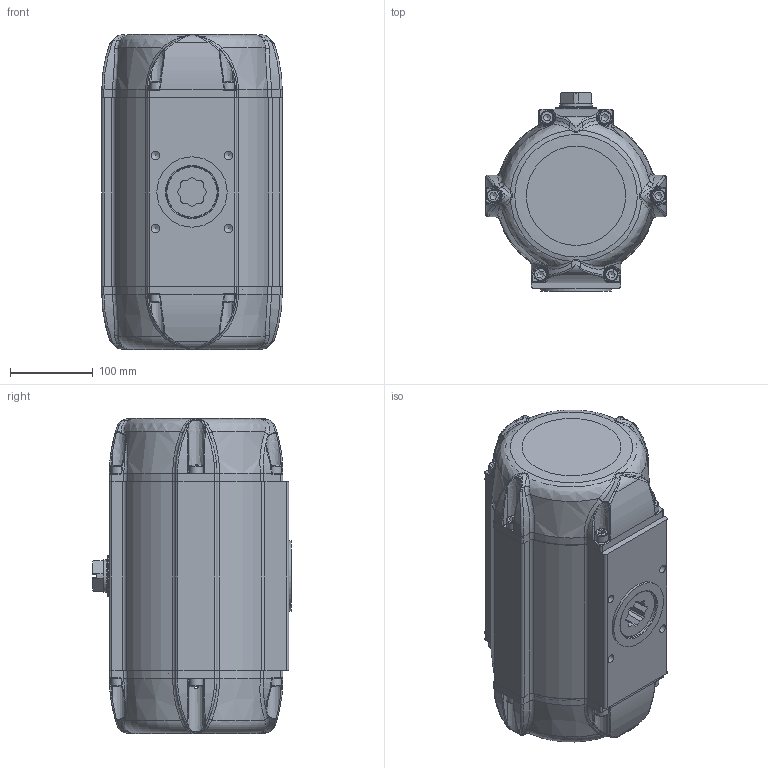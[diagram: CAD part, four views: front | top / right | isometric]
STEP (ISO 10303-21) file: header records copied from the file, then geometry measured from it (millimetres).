
FILE_DESCRIPTION((''),'2;1');
FILE_NAME('C:\Dokumente und Einstellungen\kir\Desktop\STEP IGES\SAF\SAF 35 BR03.stp','2006-12-19T11:42:11',('kir'),(''),'Autodesk Inventor 10','Autodesk Inventor 10','');
FILE_SCHEMA(('AUTOMOTIVE_DESIGN { 1 0 10303 214 1 1 1 1 }'));
Length unit declared in the file: millimetre
Products named in the file (1): ENG-039902
Bounding box: 218 x 240 x 382 mm (x, y, z)
Volume: 2695008.8 mm3; surface area: 648652.7 mm2
Topology: 25 solids, 25 shells, 1104 faces, 2735 edges, 1686 vertices
Faces by surface type: bspline 580, plane 267, cylinder 160, cone 70, torus 27
Full cylindrical faces by diameter (mm): 8.376 x6, 10 x12, 10.5 x6, 16 x12, 34.9 x1, 36 x1, 37 x3, 39.8 x3, 40 x1, 40.1 x1, 45 x1, 50 x2, 56.9 x1, 57 x1, 61.8 x3, 85 x1, 176 x1, 180 x1, 188.153 x1, 189.616 x1
Entity records: 68940 total; most frequent: CARTESIAN_POINT 47445, ORIENTED_EDGE 4770, DIRECTION 3556, EDGE_CURVE 2385, VERTEX_POINT 1550, AXIS2_PLACEMENT_3D 1467, EDGE_LOOP 1371, FACE_OUTER_BOUND 1104
